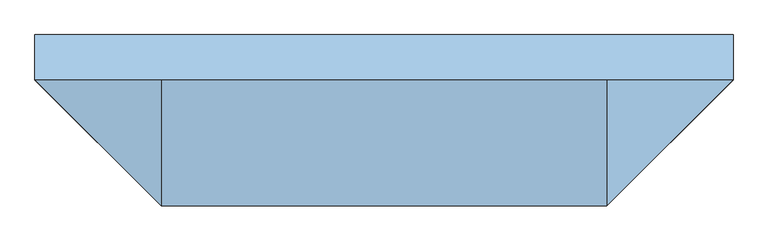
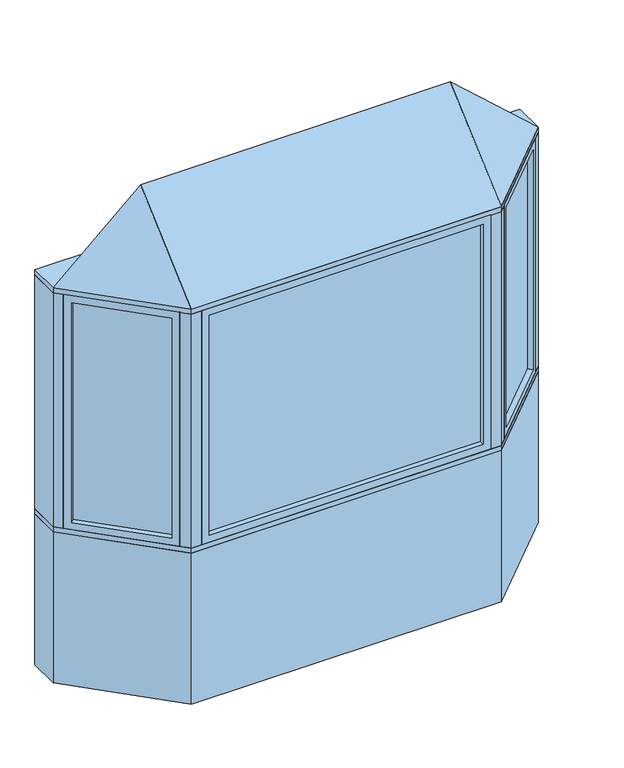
"""IFC4 building model written with IfcOpenShell, lengths in millimetres: window geometry, Pollard_Windows_Tudor Casement Bows and Bays : AML-BAY 45 AFR0612-12-500."""

from ifc_helpers import new_model, si_unit, frame, origin, origin_with_axes, place, context, project, spatial, polyline, outline, extrude, faceted_brep, source, transform, mapped, element, save


def window_450d49d1(model_context):
    return source(origin(), model_context, "Body", "SolidModel", [
        extrude(outline(polyline([(1110.5964271, -104.763169), (784.824814, -430.5347822), (781.2327115, -426.9426797), (1107.0043247, -101.1710666), (1110.5964271, -104.763169)])), frame((0.0, 0.0, 823.1628), z_axis=(0.0, 0.0, 1.0), x_axis=(1.0, 0.0, 0.0)), (0.0, 0.0, 1.0), 1153.6704),
        faceted_brep([(1101.616171, -113.7434252, 835.8628), (1119.5766833, -131.7039374, 835.8628), (1119.5766833, -131.7039374, 1964.1332), (1101.616171, -113.7434252, 1964.1332), (1107.0043247, -101.1710666, 823.1628), (1110.5964271, -104.763169, 823.1628), (1110.5964271, -104.763169, 1976.8332), (1107.0043247, -101.1710666, 1976.8332), (1080.0635563, -92.1908105, 835.8628), (1098.0240686, -110.1513227, 835.8628), (1098.0240686, -110.1513227, 1964.1332), (1080.0635563, -92.1908105, 1964.1332), (1144.9369265, -106.3436941, 799.998), (1105.4237996, -66.8305672, 799.998), (1105.4237996, -66.8305672, 1999.998), (1144.9369265, -106.3436941, 1999.998), (811.7655823, -439.5150383, 1964.1332), (793.8050701, -421.5545261, 1964.1332), (784.824814, -430.5347822, 1976.8332), (781.2327115, -426.9426797, 1976.8332), (790.2129677, -417.9624236, 1964.1332), (772.2524554, -400.0019114, 1964.1332), (746.8922121, -425.3621547, 1999.998), (786.4053391, -464.8752816, 1999.998), (811.7655823, -439.5150383, 835.8628), (793.8050701, -421.5545261, 835.8628), (784.824814, -430.5347822, 823.1628), (781.2327115, -426.9426797, 823.1628), (790.2129677, -417.9624236, 835.8628), (772.2524554, -400.0019114, 835.8628), (746.8922121, -425.3621547, 799.998), (786.4053391, -464.8752816, 799.998)], [[[0, 1, 2, 3]], [[4, 5, 6, 7]], [[8, 9, 10, 11]], [[12, 13, 14, 15]], [[3, 2, 16, 17]], [[7, 6, 18, 19]], [[11, 10, 20, 21]], [[15, 14, 22, 23]], [[17, 16, 24, 25]], [[19, 18, 26, 27]], [[21, 20, 28, 29]], [[23, 22, 30, 31]], [[25, 24, 1, 0]], [[5, 26, 18, 6], [3, 17, 25, 0]], [[27, 26, 5, 4]], [[7, 19, 27, 4], [9, 28, 20, 10]], [[29, 28, 9, 8]], [[13, 30, 22, 14], [11, 21, 29, 8]], [[31, 30, 13, 12]], [[15, 23, 31, 12], [1, 24, 16, 2]]]),
        extrude(outline(polyline([(-784.824814, -430.5347822), (-1110.5964271, -104.763169), (-1107.0043247, -101.1710666), (-781.2327115, -426.9426797), (-784.824814, -430.5347822)])), frame((0.0, 0.0, 823.1628), z_axis=(0.0, 0.0, 1.0), x_axis=(1.0, 0.0, 0.0)), (0.0, 0.0, 1.0), 1153.6704),
        faceted_brep([(-790.2129677, -417.9624236, 1964.1332), (-772.2524554, -400.0019114, 1964.1332), (-772.2524554, -400.0019114, 835.8628), (-790.2129677, -417.9624236, 835.8628), (-784.824814, -430.5347822, 1976.8332), (-781.2327115, -426.9426797, 1976.8332), (-781.2327115, -426.9426797, 823.1628), (-784.824814, -430.5347822, 823.1628), (-811.7655823, -439.5150383, 1964.1332), (-793.8050701, -421.5545261, 1964.1332), (-793.8050701, -421.5545261, 835.8628), (-811.7655823, -439.5150383, 835.8628), (-746.8922121, -425.3621547, 1999.998), (-786.4053391, -464.8752816, 1999.998), (-786.4053391, -464.8752816, 799.998), (-746.8922121, -425.3621547, 799.998), (-1080.0635563, -92.1908105, 835.8628), (-1098.0240686, -110.1513227, 835.8628), (-1107.0043247, -101.1710666, 823.1628), (-1110.5964271, -104.763169, 823.1628), (-1101.616171, -113.7434252, 835.8628), (-1119.5766833, -131.7039374, 835.8628), (-1144.9369265, -106.3436941, 799.998), (-1105.4237996, -66.8305672, 799.998), (-1080.0635563, -92.1908105, 1964.1332), (-1098.0240686, -110.1513227, 1964.1332), (-1107.0043247, -101.1710666, 1976.8332), (-1110.5964271, -104.763169, 1976.8332), (-1101.616171, -113.7434252, 1964.1332), (-1119.5766833, -131.7039374, 1964.1332), (-1144.9369265, -106.3436941, 1999.998), (-1105.4237996, -66.8305672, 1999.998)], [[[0, 1, 2, 3]], [[4, 5, 6, 7]], [[8, 9, 10, 11]], [[12, 13, 14, 15]], [[3, 2, 16, 17]], [[7, 6, 18, 19]], [[11, 10, 20, 21]], [[15, 14, 22, 23]], [[17, 16, 24, 25]], [[19, 18, 26, 27]], [[21, 20, 28, 29]], [[23, 22, 30, 31]], [[15, 23, 31, 12], [1, 24, 16, 2]], [[25, 24, 1, 0]], [[5, 26, 18, 6], [3, 17, 25, 0]], [[27, 26, 5, 4]], [[7, 19, 27, 4], [9, 28, 20, 10]], [[29, 28, 9, 8]], [[13, 30, 22, 14], [11, 21, 29, 8]], [[31, 30, 13, 12]]]),
        extrude(outline(polyline([(677.8852, -474.8306207), (-677.8852, -474.8306207), (-677.8852, -469.7506207), (677.8852, -469.7506207), (677.8852, -474.8306207)])), frame((0.0, 0.0, 823.1628), z_axis=(0.0, 0.0, 1.0), x_axis=(1.0, 0.0, 0.0)), (0.0, 0.0, 1.0), 1153.6704),
        faceted_brep([(665.1852, -474.8306207, 835.8628), (665.1852, -500.2306207, 835.8628), (665.1852, -500.2306207, 1964.1332), (665.1852, -474.8306207, 1964.1332), (677.8852, -469.7506207, 823.1628), (677.8852, -474.8306207, 823.1628), (677.8852, -474.8306207, 1976.8332), (677.8852, -469.7506207, 1976.8332), (665.1852, -444.3506207, 835.8628), (665.1852, -469.7506207, 835.8628), (665.1852, -469.7506207, 1964.1332), (665.1852, -444.3506207, 1964.1332), (701.05, -500.2306207, 799.998), (701.05, -444.3506207, 799.998), (701.05, -444.3506207, 1999.998), (701.05, -500.2306207, 1999.998), (-665.1852, -500.2306207, 1964.1332), (-665.1852, -474.8306207, 1964.1332), (-677.8852, -474.8306207, 1976.8332), (-677.8852, -469.7506207, 1976.8332), (-665.1852, -469.7506207, 1964.1332), (-665.1852, -444.3506207, 1964.1332), (-701.05, -444.3506207, 1999.998), (-701.05, -500.2306207, 1999.998), (-665.1852, -500.2306207, 835.8628), (-665.1852, -474.8306207, 835.8628), (-677.8852, -474.8306207, 823.1628), (-677.8852, -469.7506207, 823.1628), (-665.1852, -469.7506207, 835.8628), (-665.1852, -444.3506207, 835.8628), (-701.05, -444.3506207, 799.998), (-701.05, -500.2306207, 799.998)], [[[0, 1, 2, 3]], [[4, 5, 6, 7]], [[8, 9, 10, 11]], [[12, 13, 14, 15]], [[3, 2, 16, 17]], [[7, 6, 18, 19]], [[11, 10, 20, 21]], [[15, 14, 22, 23]], [[17, 16, 24, 25]], [[19, 18, 26, 27]], [[21, 20, 28, 29]], [[23, 22, 30, 31]], [[15, 23, 31, 12], [1, 24, 16, 2]], [[25, 24, 1, 0]], [[5, 26, 18, 6], [3, 17, 25, 0]], [[27, 26, 5, 4]], [[7, 19, 27, 4], [9, 28, 20, 10]], [[29, 28, 9, 8]], [[13, 30, 22, 14], [11, 21, 29, 8]], [[31, 30, 13, 12]]]),
        faceted_brep([(1176.5, -74.7806207, 2025.398), (751.05, -500.2306207, 2025.398), (-751.05, -500.2306207, 2025.398), (-1176.5, -74.7806207, 2025.398), (-751.05, -74.7806207, 2406.398), (751.05, -74.7806207, 2406.398)], [[[0, 1, 2, 3]], [[3, 2, 4]], [[2, 1, 5, 4]], [[1, 0, 5]], [[0, 3, 4, 5]]]),
        extrude(outline(polyline([(-1176.5, 77.6193793), (1176.5, 77.6193793), (1176.5, -74.7806207), (751.05, -500.2306207), (-751.05, -500.2306207), (-1176.5, -74.7806207), (-1176.5, 77.6193793)])), frame((0.0, 0.0, 1999.998), z_axis=(0.0, 0.0, 1.0), x_axis=(1.0, 0.0, 0.0)), (0.0, 0.0, 1.0), 25.4),
        extrude(outline(polyline([(-1176.5, -74.7806207), (-1176.5, 77.6193793), (-1113.3738531, 77.6193793), (-1113.3738531, -74.7806207), (-1144.9369265, -106.3436941), (-1176.5, -74.7806207)])), frame((0.0, 0.0, 799.998), z_axis=(0.0, 0.0, 1.0), x_axis=(1.0, 0.0, 0.0)), (0.0, 0.0, 1.0), 1200.0),
        extrude(outline(polyline([(1176.5, 77.6193793), (1176.5, -74.7806207), (1144.9369265, -106.3436941), (1113.3738531, -74.7806207), (1113.3738531, 77.6193793), (1176.5, 77.6193793)])), frame((0.0, 0.0, 799.998), z_axis=(0.0, 0.0, 1.0), x_axis=(1.0, 0.0, 0.0)), (0.0, 0.0, 1.0), 1200.0),
        extrude(outline(polyline([(751.05, -500.2306207), (701.05, -500.2306207), (701.05, -450.2306207), (730.3393219, -450.2306207), (751.05, -429.5199425), (786.4053391, -464.8752816), (751.05, -500.2306207)])), frame((0.0, 0.0, 799.998), z_axis=(0.0, 0.0, 1.0), x_axis=(1.0, 0.0, 0.0)), (0.0, 0.0, 1.0), 1200.0),
        extrude(outline(polyline([(-751.05, -500.2306207), (-786.4053391, -464.8752816), (-751.05, -429.5199425), (-730.3393219, -450.2306207), (-701.05, -450.2306207), (-701.05, -500.2306207), (-751.05, -500.2306207)])), frame((0.0, 0.0, 799.998), z_axis=(0.0, 0.0, 1.0), x_axis=(1.0, 0.0, 0.0)), (0.0, 0.0, 1.0), 1200.0),
        extrude(outline(polyline([(-751.05, -500.2306207), (-1176.5, -74.7806207), (-1176.5, 77.6193793), (-1113.3738531, 77.6193793), (-687.9238531, -347.8306207), (687.9238531, -347.8306207), (1113.3738531, 77.6193793), (1176.5, 77.6193793), (1176.5, -74.7806207), (751.05, -500.2306207), (-751.05, -500.2306207)])), frame((0.0, 0.0, 774.598), z_axis=(0.0, 0.0, 1.0), x_axis=(1.0, 0.0, 0.0)), (0.0, 0.0, 1.0), 25.4),
        extrude(outline(polyline([(-1176.5, -74.7806207), (-1176.5, 77.6193793), (-1113.3738531, 77.6193793), (-687.9238531, -347.8306207), (687.9238531, -347.8306207), (1113.3738531, 77.6193793), (1176.5, 77.6193793), (1176.5, -74.7806207), (751.05, -500.2306207), (-751.05, -500.2306207), (-1176.5, -74.7806207)])), origin_with_axes(), (0.0, 0.0, 1.0), 774.598),
    ])


if __name__ == "__main__":
    model = new_model("IFC4")
    model_context = context("Model", 3, world=origin())
    ifc_project = project(units=[si_unit("LENGTHUNIT", "METRE", prefix="MILLI")], contexts=[model_context])
    site = spatial("IfcSite", under=ifc_project)
    building = spatial("IfcBuilding", under=site)
    placement = place(None, origin())
    window_shape = window_450d49d1(model_context)
    element("IfcWindow", 1, ObjectType="Pollard_Windows_Tudor Casement Bows and Bays : AML-BAY 45 AFR0612-12-500", at=placement, inside=building, context=model_context, shape_type="MappedRepresentation", body=[
        mapped(window_shape, transform((0.0, 0.0, 0.0), x_axis=(1.0, 0.0, 0.0), y_axis=(0.0, 1.0, 0.0), z_axis=(0.0, 0.0, 1.0))),
    ])
    save(model, "model.ifc")
